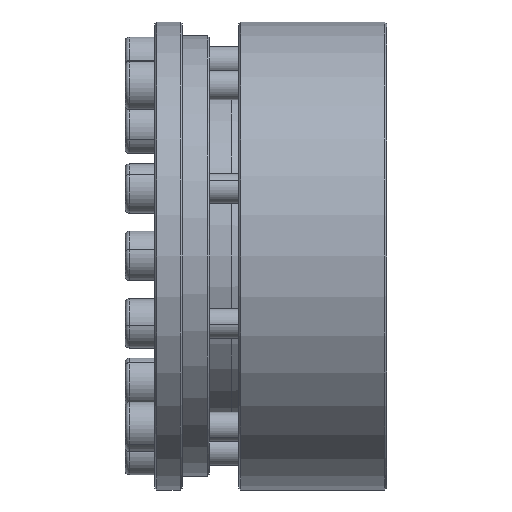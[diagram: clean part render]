
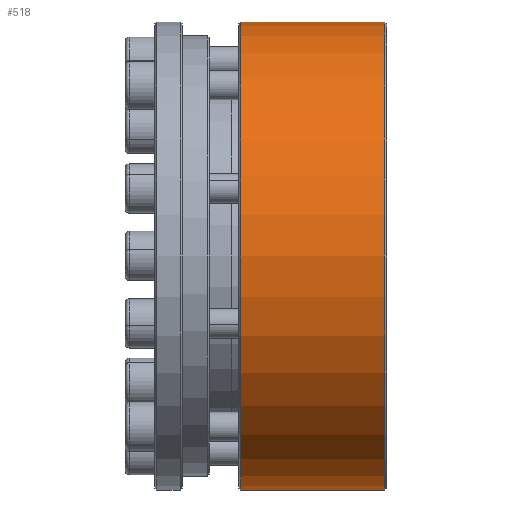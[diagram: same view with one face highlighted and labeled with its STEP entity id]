
A CAD part, front view. The second image highlights one B-rep face of the part: STEP entity #518.
In plain terms, the highlighted cylindrical face has radius 47.45 mm (diameter 94.9 mm), a partial arc.
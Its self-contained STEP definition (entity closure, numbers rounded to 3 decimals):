
#43 = CARTESIAN_POINT ( 'NONE',  ( -59.166, 26.04, -47.45 ) ) ;
#48 = ORIENTED_EDGE ( 'NONE', *, *, #2927, .T. ) ;
#388 = CARTESIAN_POINT ( 'NONE',  ( -88.766, 26.04, 47.45 ) ) ;
#518 = ADVANCED_FACE ( 'NONE', ( #8908 ), #2724, .T. ) ;
#596 = CARTESIAN_POINT ( 'NONE',  ( -88.366, 26.04, -47.45 ) ) ;
#1257 = EDGE_LOOP ( 'NONE', ( #5256, #5605, #2041, #48 ) ) ;
#1393 = VECTOR ( 'NONE', #2603, 1000. ) ;
#1551 = VERTEX_POINT ( 'NONE', #4395 ) ;
#2041 = ORIENTED_EDGE ( 'NONE', *, *, #3607, .T. ) ;
#2059 = CARTESIAN_POINT ( 'NONE',  ( -88.366, 26.04, 0. ) ) ;
#2248 = VERTEX_POINT ( 'NONE', #3915 ) ;
#2603 = DIRECTION ( 'NONE',  ( -1., 0., 0. ) ) ;
#2724 = CYLINDRICAL_SURFACE ( 'NONE', #8961, 47.45 ) ;
#2804 = AXIS2_PLACEMENT_3D ( 'NONE', #8569, #6976, #3416 ) ;
#2927 = EDGE_CURVE ( 'NONE', #2248, #3319, #8651, .T. ) ;
#2996 = DIRECTION ( 'NONE',  ( 0., 0., -1. ) ) ;
#3319 = VERTEX_POINT ( 'NONE', #596 ) ;
#3360 = DIRECTION ( 'NONE',  ( -1., 0., 0. ) ) ;
#3416 = DIRECTION ( 'NONE',  ( 0., 0., 1. ) ) ;
#3551 = CARTESIAN_POINT ( 'NONE',  ( -88.766, 26.04, 0. ) ) ;
#3607 = EDGE_CURVE ( 'NONE', #1551, #2248, #5491, .T. ) ;
#3915 = CARTESIAN_POINT ( 'NONE',  ( -88.366, 26.04, 47.45 ) ) ;
#4395 = CARTESIAN_POINT ( 'NONE',  ( -59.166, 26.04, 47.45 ) ) ;
#4898 = CARTESIAN_POINT ( 'NONE',  ( -88.766, 26.04, -47.45 ) ) ;
#4936 = VECTOR ( 'NONE', #3360, 1000. ) ;
#4980 = CIRCLE ( 'NONE', #2804, 47.45 ) ;
#5256 = ORIENTED_EDGE ( 'NONE', *, *, #7856, .F. ) ;
#5491 = LINE ( 'NONE', #388, #4936 ) ;
#5605 = ORIENTED_EDGE ( 'NONE', *, *, #8684, .T. ) ;
#5785 = DIRECTION ( 'NONE',  ( 0., 0., 1. ) ) ;
#6617 = DIRECTION ( 'NONE',  ( -1., 0., 0. ) ) ;
#6976 = DIRECTION ( 'NONE',  ( -1., 0., 0. ) ) ;
#7084 = LINE ( 'NONE', #4898, #1393 ) ;
#7188 = VERTEX_POINT ( 'NONE', #43 ) ;
#7856 = EDGE_CURVE ( 'NONE', #7188, #3319, #7084, .T. ) ;
#7994 = DIRECTION ( 'NONE',  ( 1., 0., 0. ) ) ;
#8569 = CARTESIAN_POINT ( 'NONE',  ( -59.166, 26.04, 0. ) ) ;
#8651 = CIRCLE ( 'NONE', #9133, 47.45 ) ;
#8684 = EDGE_CURVE ( 'NONE', #7188, #1551, #4980, .T. ) ;
#8908 = FACE_OUTER_BOUND ( 'NONE', #1257, .T. ) ;
#8961 = AXIS2_PLACEMENT_3D ( 'NONE', #3551, #6617, #5785 ) ;
#9133 = AXIS2_PLACEMENT_3D ( 'NONE', #2059, #7994, #2996 ) ;
